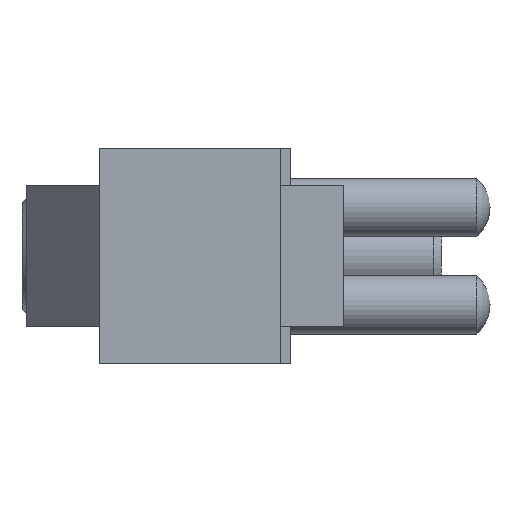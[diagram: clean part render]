
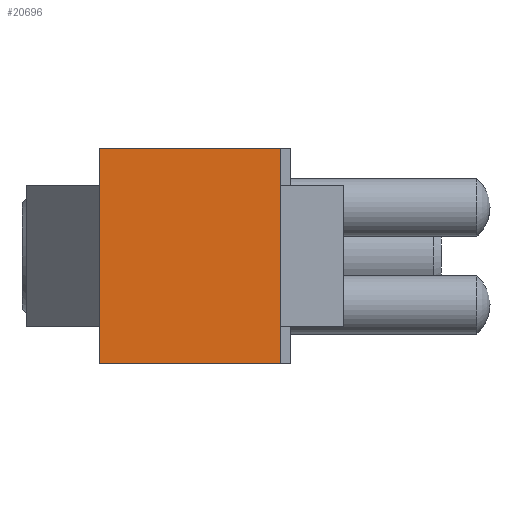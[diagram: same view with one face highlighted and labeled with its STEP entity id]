
A CAD part, left-side view. The second image highlights one B-rep face of the part: STEP entity #20696.
In plain terms, the highlighted planar face has unit normal (-1, 0, 0).
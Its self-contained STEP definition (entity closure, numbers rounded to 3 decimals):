
#3324=ORIENTED_EDGE('',*,*,#8470,.T.);
#3325=ORIENTED_EDGE('',*,*,#8471,.F.);
#3326=ORIENTED_EDGE('',*,*,#8472,.F.);
#3327=ORIENTED_EDGE('',*,*,#8473,.T.);
#8470=EDGE_CURVE('',#10656,#10657,#13404,.T.);
#8471=EDGE_CURVE('',#10658,#10657,#13405,.T.);
#8472=EDGE_CURVE('',#10659,#10658,#13406,.T.);
#8473=EDGE_CURVE('',#10659,#10656,#13407,.T.);
#10656=VERTEX_POINT('',#32004);
#10657=VERTEX_POINT('',#32005);
#10658=VERTEX_POINT('',#32007);
#10659=VERTEX_POINT('',#32009);
#13404=LINE('',#32003,#16270);
#13405=LINE('',#32006,#16271);
#13406=LINE('',#32008,#16272);
#13407=LINE('',#32010,#16273);
#16270=VECTOR('',#26095,1000.);
#16271=VECTOR('',#26096,1000.);
#16272=VECTOR('',#26097,1000.);
#16273=VECTOR('',#26098,1000.);
#17572=EDGE_LOOP('',(#3324,#3325,#3326,#3327));
#18636=FACE_BOUND('',#17572,.T.);
#19700=PLANE('',#21829);
#20696=ADVANCED_FACE('',(#18636),#19700,.F.);
#21829=AXIS2_PLACEMENT_3D('',#32002,#26093,#26094);
#26093=DIRECTION('',(1.,0.,0.));
#26094=DIRECTION('',(0.,0.,-1.));
#26095=DIRECTION('',(0.,-1.,0.));
#26096=DIRECTION('',(0.,0.,-1.));
#26097=DIRECTION('',(0.,-1.,0.));
#26098=DIRECTION('',(0.,0.,-1.));
#32002=CARTESIAN_POINT('',(0.,19.5,11.));
#32003=CARTESIAN_POINT('',(0.,19.5,-11.));
#32004=CARTESIAN_POINT('',(0.,19.5,-11.));
#32005=CARTESIAN_POINT('',(0.,1.,-11.));
#32006=CARTESIAN_POINT('',(0.,1.,11.));
#32007=CARTESIAN_POINT('',(0.,1.,11.));
#32008=CARTESIAN_POINT('',(0.,19.5,11.));
#32009=CARTESIAN_POINT('',(0.,19.5,11.));
#32010=CARTESIAN_POINT('',(0.,19.5,11.));
